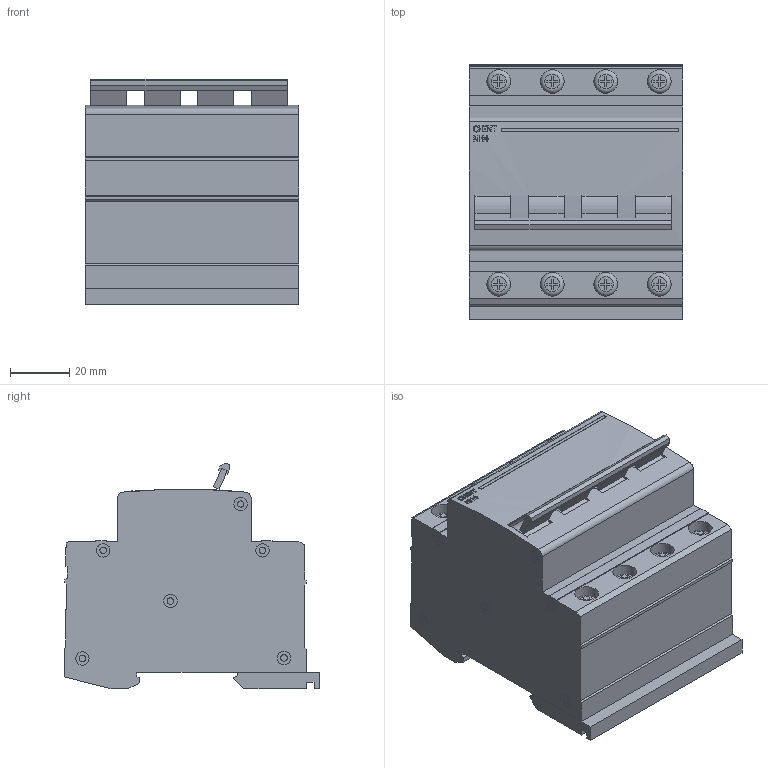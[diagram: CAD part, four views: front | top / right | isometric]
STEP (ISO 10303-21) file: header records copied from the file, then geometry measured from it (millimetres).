
FILE_DESCRIPTION(/* description */ (''),/* implementation_level */ '2;1');
FILE_NAME(/* name */ 'D:\CHINT\NH4\Нагр. выключатель NH4 4P 32A (CHINT).stp',/* time_stamp */ '2017-09-30T15:24:48+04:00',/* author */ ('RSagdiev'),/* organization */ (''),/* preprocessor_version */ 'ST-DEVELOPER v16.5',/* originating_system */ 'Autodesk Inventor 2017',/* authorisation */ '');
FILE_SCHEMA (('AUTOMOTIVE_DESIGN { 1 0 10303 214 3 1 1 }'));
Length unit declared in the file: millimetre
Products named in the file (1): Нагр. \X2\0432044B043A043B044E0447
043004420435043B044C\X0\ NH4 4P 32A (CHINT)
Bounding box: 72 x 86 x 76.01 mm (x, y, z)
Volume: 326110.3 mm3; surface area: 47511.1 mm2
Topology: 19 solids, 31 shells, 568 faces, 1228 edges, 808 vertices
Faces by surface type: plane 421, cylinder 123, bspline 16, torus 8
Full cylindrical faces by diameter (mm): 2.111 x8, 2.171 x8, 2.212 x24, 4.524 x30, 8 x16, 13.756 x4
Entity records: 15171 total; most frequent: CARTESIAN_POINT 2862, DIRECTION 2546, ORIENTED_EDGE 2260, EDGE_CURVE 1130, AXIS2_PLACEMENT_3D 895, VERTEX_POINT 808, LINE 756, VECTOR 756
